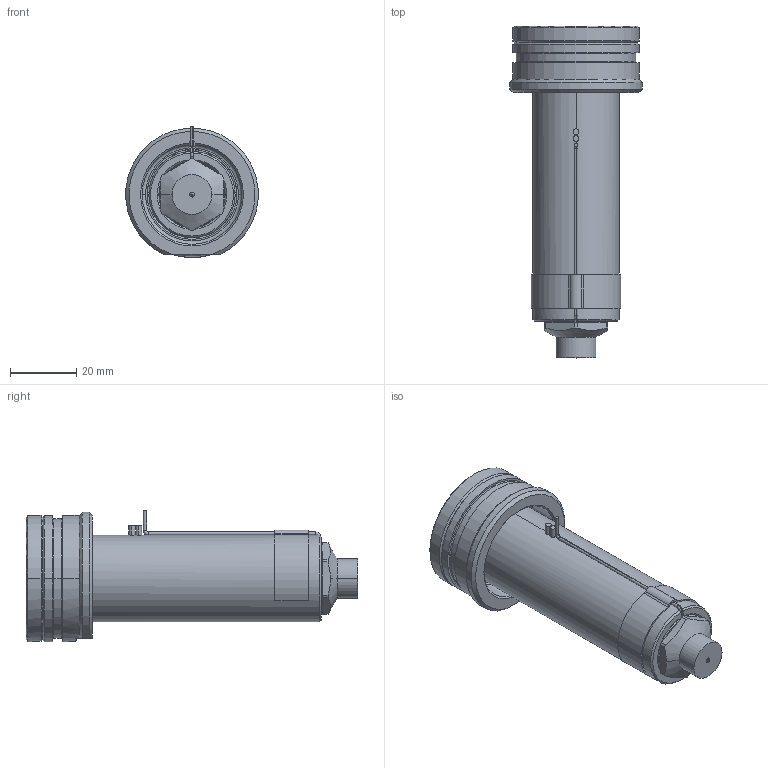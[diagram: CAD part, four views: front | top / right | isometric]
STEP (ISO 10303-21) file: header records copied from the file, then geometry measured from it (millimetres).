
FILE_DESCRIPTION((''),'2;1');
FILE_NAME('EO08_PG-FB_WR_080_SW','2024-02-19T11:30:58',('sundharh'),(''),'CREO PARAMETRIC BY PTC INC, 2023154','CREO PARAMETRIC BY PTC INC, 2023154','');
FILE_SCHEMA(('CONFIG_CONTROL_DESIGN'));
Length unit declared in the file: millimetre
Products named in the file (1): EO08_PG-FB_WR_080_SW
Bounding box: 39.88 x 100 x 39.52 mm (x, y, z)
Volume: 54543.6 mm3; surface area: 17562.1 mm2
Topology: 1 solids, 1 shells, 208 faces, 554 edges, 342 vertices
Faces by surface type: cylinder 81, plane 58, cone 43, torus 19, bspline 4, sphere 3
Entity records: 7990 total; most frequent: CARTESIAN_POINT 2698, DIRECTION 1166, ORIENTED_EDGE 1096, EDGE_CURVE 548, AXIS2_PLACEMENT_3D 487, VERTEX_POINT 342, CIRCLE 283, EDGE_LOOP 226
